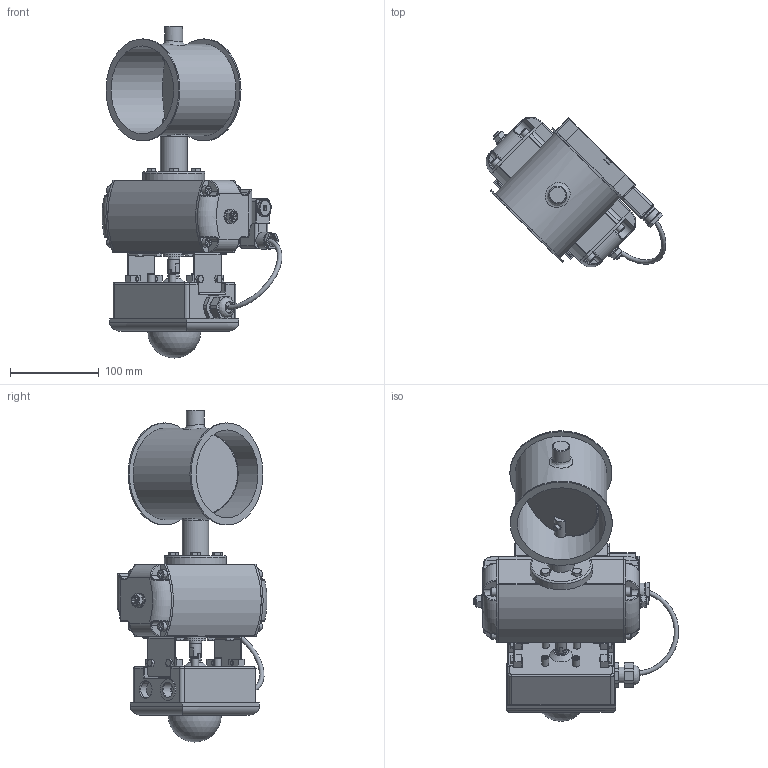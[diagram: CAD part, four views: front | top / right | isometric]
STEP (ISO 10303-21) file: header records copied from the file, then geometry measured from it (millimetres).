
FILE_DESCRIPTION((''),'2;1');
FILE_NAME('U:\Wolfgang\Marcel-3D\fertig\Kapitel 8\1021213.stp','2011-05-03T15:05:50',('TK1'),(''),'Autodesk Inventor 2010','Autodesk Inventor 2010','');
FILE_SCHEMA(('AUTOMOTIVE_DESIGN { 1 0 10303 214 1 1 1 1 }'));
Length unit declared in the file: millimetre
Products named in the file (40): 1021213; BuchseD15 70-50; 1021211-1; Bolzen D15; Scheibe100b; DIN 6912 M6 x 16; DIN EN ISO 4018 M6x25; Pneumatischer SchwenkantriebS63D-2; Body; roter Verschluss; A1 Schwenkantrieb; Body S063D; End Cap L; End Cap R; DIN EN ISO 4762 M6 x 12; DIN EN ISO 4018 M5x10; DIN 916 M8  x  40; DIN 555 - ersetzt durch DIN EN 24034 M8; DIN 125-1 A A 8,4; DIN 125-1 A A 13; A1 Ventileinheit-2; Ventil1; Ventil1a; Ventil1b; Ventil1a_1; Ventil1b_1; ISO 7046-1 Z M4 x 25 - 4.8 - Z; Ventil1c; Ventil1d; ISO 7047 (H) M3x8 - 4.8 - H; DIN 7984 M6 x 40; DIN EN ISO 7042 M8; Ventil1e; Ventil1f; DIN EN 24766 M6 x 30; DIN 439-2 - ersetzt durch DIN EN 24035/28675 M6; entlüftung; Halterung; Deckel2; Schlauch 1
Assembly tree (78 placements, depth 4):
  1021213
    BuchseD15 70-50
    1021211-1
    Bolzen D15  x2
    Scheibe100b
    DIN 6912 M6 x 16  x2
    DIN EN ISO 4018 M6x25  x4
    Pneumatischer SchwenkantriebS63D-2
      Body
      roter Verschluss
      A1 Schwenkantrieb
        Body S063D
        End Cap L
        End Cap R
        DIN EN ISO 4762 M6 x 12  x8
        DIN EN ISO 4018 M5x10  x4
        DIN 916 M8  x  40  x2
        DIN 555 - ersetzt durch DIN EN 24034 M8  x2
        DIN 125-1 A A 8,4  x2
        DIN 125-1 A A 13  x2
      A1 Ventileinheit-2
        Ventil1
        Ventil1a
        Ventil1b
        Ventil1a_1
        Ventil1b_1
        ISO 7046-1 Z M4 x 25 - 4.8 - Z  x8
        Ventil1c
        Ventil1d
        ISO 7047 (H) M3x8 - 4.8 - H
        DIN 7984 M6 x 40  x2
        DIN EN ISO 7042 M8  x2
        DIN 125-1 A A 8,4  x2
        Ventil1e  x2
        Ventil1f  x2
        DIN EN 24766 M6 x 30  x2
        DIN 439-2 - ersetzt durch DIN EN 24035/28675 M6  x2
        entlüftung
      Halterung  x2
      DIN EN ISO 4018 M5x10  x4
      Deckel2
      Schlauch 1
Bounding box: 202.7 x 168.87 x 374 mm (x, y, z)
Volume: 1620740.8 mm3; surface area: 379454.2 mm2
Topology: 78 solids, 79 shells, 1679 faces, 3970 edges, 2523 vertices
Faces by surface type: plane 824, cylinder 326, cone 302, bspline 146, torus 73, sphere 8
Full cylindrical faces by diameter (mm): 2.5 x1, 3 x3, 3.242 x8, 3.571 x8, 4 x8, 4.917 x4, 5 x10, 5.5 x1, 6 x24, 6.647 x1, 8 x6, 8.4 x12, 10 x14, 11.63 x6, 11.9 x2, 12 x1, 12.5 x1, 13 x7, 14 x5, 15 x3, 15.5 x1, 15.918 x1, 16 x5, 16.918 x1, 17 x3, 17.79 x2, 18 x3, 19 x2, 20 x1, 22 x1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
Entity records: 30448 total; most frequent: CARTESIAN_POINT 8239, DIRECTION 4465, ORIENTED_EDGE 3896, EDGE_CURVE 1948, AXIS2_PLACEMENT_3D 1766, VERTEX_POINT 1367, EDGE_LOOP 1360, FACE_OUTER_BOUND 959
